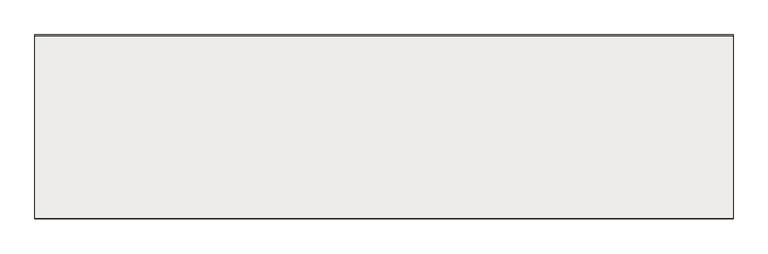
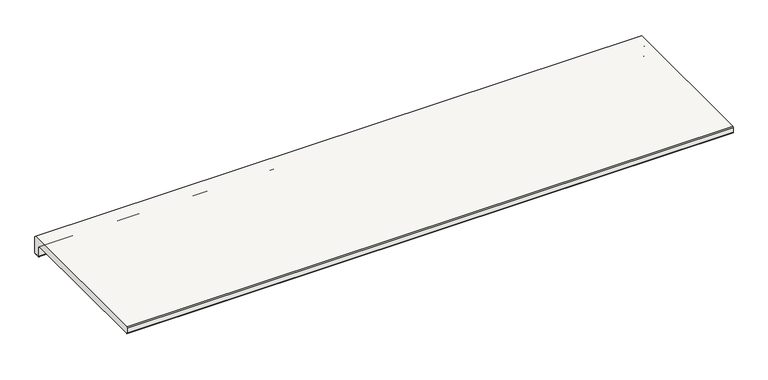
"""IFC4 building model written with IfcOpenShell, lengths in millimetres: slab geometry, ROSA GRES_L62 : Pieza L62_Tresor_Java_Anti-Slip."""

from ifc_helpers import new_model, si_unit, point, frame, frame_2d, origin, place, context, project, spatial, polyline, circle_curve, trimmed, segment, composite_curve, outline, extrude, source, transform, mapped, element, save


def slab_7ef6d17a(model_context):
    return source(origin(), model_context, "Body", "SweptSolid", [
        extrude(outline(composite_curve([segment(trimmed(circle_curve(frame_2d((-12.1001991, -35.1001991)), 1.8998009), [point((-12.1001991, -37.0))], [point((-14.0, -35.1001991))], False, "CARTESIAN"), True, "CONTINUOUS"), segment(polyline([(-14.0, -35.1001991), (-14.0, -16.5836242)]), True, "CONTINUOUS"), segment(trimmed(circle_curve(frame_2d((-16.6422322, -16.5836242)), 2.6422322), [point((-14.0, -16.5836242))], [point((-16.6422322, -13.9413919))], True, "CARTESIAN"), True, "CONTINUOUS"), segment(polyline([(-16.6422322, -13.9413919), (-315.5234432, -13.9413919)]), True, "CONTINUOUS"), segment(trimmed(circle_curve(frame_2d((-315.5234432, -12.4648352)), 1.4765568), [point((-315.5234432, -13.9413919))], [point((-317.0, -12.4648352))], False, "CARTESIAN"), True, "CONTINUOUS"), segment(polyline([(-317.0, -12.4648352), (-317.0, -2.5), (-315.5, 0.0), (-2.5, 0.0), (0.0, -2.5), (0.0, -34.5)]), True, "CONTINUOUS"), segment(trimmed(circle_curve(frame_2d((-2.5, -34.5)), 2.5), [point((0.0, -34.5))], [point((-2.5, -37.0))], False, "CARTESIAN"), True, "CONTINUOUS"), segment(polyline([(-2.5, -37.0), (-5.422949, -37.0)]), True, "CONTINUOUS"), segment(trimmed(circle_curve(frame_2d((-7.4142134, -37.0)), 1.9912643), [point((-5.422949, -37.0))], [point((-9.4054777, -37.0))], True, "CARTESIAN"), True, "CONTINUOUS"), segment(polyline([(-9.4054777, -37.0), (-12.1001991, -37.0)]), True, "CONTINUOUS")], self_intersect=False)), frame((0.0, 0.0, 0.0), z_axis=(1.0, 0.0, 0.0), x_axis=(0.0, 1.0, 0.0)), (0.0, 0.0, 1.0), 1203.0),
    ])


if __name__ == "__main__":
    model = new_model("IFC4")
    model_context = context("Model", 3, world=origin())
    ifc_project = project(units=[si_unit("LENGTHUNIT", "METRE", prefix="MILLI")], contexts=[model_context])
    site = spatial("IfcSite", under=ifc_project)
    building = spatial("IfcBuilding", under=site)
    placement = place(None, origin())
    slab_shape = slab_7ef6d17a(model_context)
    element("IfcSlab", 1, ObjectType="ROSA GRES_L62 : Pieza L62_Tresor_Java_Anti-Slip", at=placement, inside=building, context=model_context, shape_type="MappedRepresentation", body=[
        mapped(slab_shape, transform((0.0, 0.0, 0.0), x_axis=(1.0, 0.0, 0.0), y_axis=(0.0, 1.0, 0.0), z_axis=(0.0, 0.0, 1.0))),
    ])
    save(model, "model.ifc")
